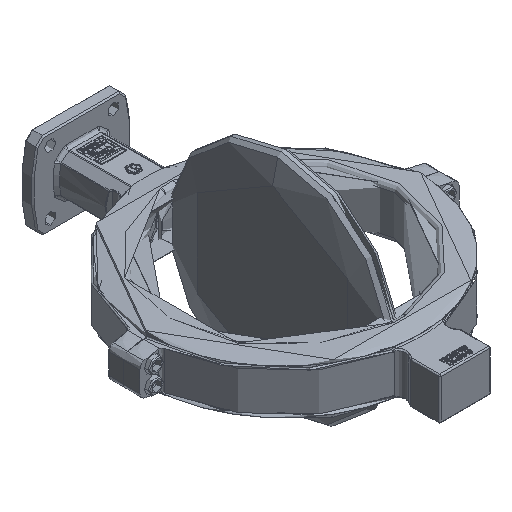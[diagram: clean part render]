
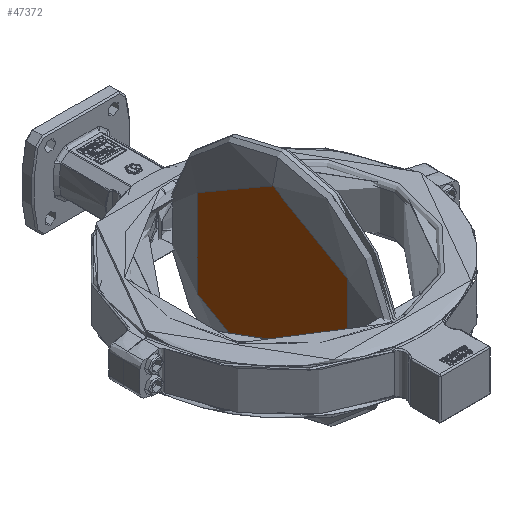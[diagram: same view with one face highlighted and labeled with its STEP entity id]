
A CAD part, isometric view. The second image highlights one B-rep face of the part: STEP entity #47372.
In plain terms, the highlighted planar face has unit normal (-1, 0, 0).
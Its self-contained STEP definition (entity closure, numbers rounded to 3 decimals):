
#16653=CARTESIAN_POINT('',(-17.,0.,0.));
#16654=DIRECTION('',(1.,0.,0.));
#16655=DIRECTION('',(0.,0.,-1.));
#16656=AXIS2_PLACEMENT_3D('',#16653,#16654,#16655);
#16658=CARTESIAN_POINT('',(-17.,0.,0.));
#16659=DIRECTION('',(1.,0.,0.));
#16660=DIRECTION('',(0.,0.,1.));
#16661=AXIS2_PLACEMENT_3D('',#16658,#16659,#16660);
#22832=CARTESIAN_POINT('',(-17.,0.,-136.465));
#22833=VERTEX_POINT('',#22832);
#22838=CARTESIAN_POINT('',(-17.,0.,136.465));
#22839=VERTEX_POINT('',#22838);
#47363=CARTESIAN_POINT('',(-17.,0.,0.));
#47364=DIRECTION('',(1.,0.,0.));
#47365=DIRECTION('',(0.,0.,1.));
#47366=AXIS2_PLACEMENT_3D('',#47363,#47364,#47365);
#47367=PLANE('',#47366);
#47368=ORIENTED_EDGE('',*,*,#47337,.T.);
#47369=ORIENTED_EDGE('',*,*,#47348,.T.);
#47370=EDGE_LOOP('',(#47368,#47369));
#47371=FACE_OUTER_BOUND('',#47370,.F.);
#47372=ADVANCED_FACE('',(#47371),#47367,.F.);
#16657=CIRCLE('',#16656,136.465);
#16662=CIRCLE('',#16661,136.465);
#47337=EDGE_CURVE('',#22833,#22839,#16657,.T.);
#47348=EDGE_CURVE('',#22839,#22833,#16662,.T.);
